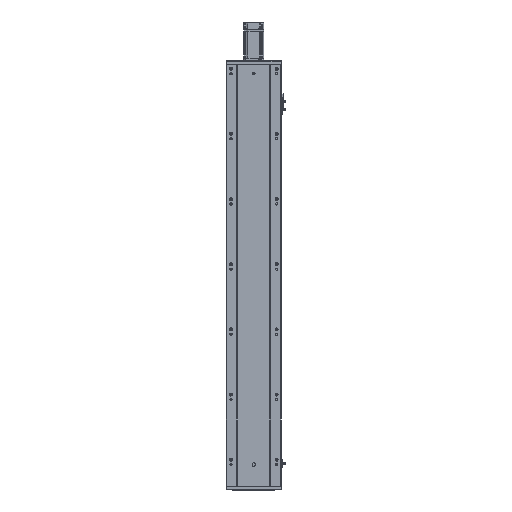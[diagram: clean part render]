
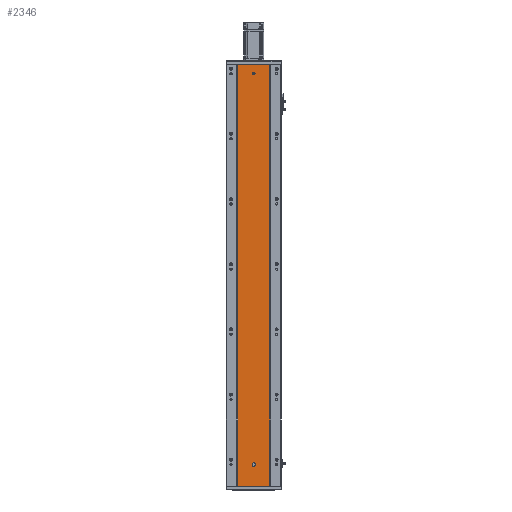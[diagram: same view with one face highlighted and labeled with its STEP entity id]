
A CAD part, front view. The second image highlights one B-rep face of the part: STEP entity #2346.
In plain terms, the highlighted planar face has unit normal (0, -1, 0).
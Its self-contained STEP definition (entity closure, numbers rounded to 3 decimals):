
#288 = CARTESIAN_POINT ( 'NONE',  ( 0., 79.476, 0. ) ) ;
#830 = CARTESIAN_POINT ( 'NONE',  ( 136.47, 79.476, 64.5 ) ) ;
#2135 = VERTEX_POINT ( 'NONE', #33741 ) ;
#2319 = CARTESIAN_POINT ( 'NONE',  ( 86.97, 79.476, 431.333 ) ) ;
#2346 = ADVANCED_FACE ( 'NONE', ( #17611, #15067, #11733 ), #59828, .F. ) ;
#2607 = DIRECTION ( 'NONE',  ( 0., 0., -1. ) ) ;
#2649 = ORIENTED_EDGE ( 'NONE', *, *, #39292, .F. ) ;
#3625 = VECTOR ( 'NONE', #52812, 1000. ) ;
#4907 = CIRCLE ( 'NONE', #14597, 4. ) ;
#5303 = CARTESIAN_POINT ( 'NONE',  ( 86.97, 79.476, 0. ) ) ;
#5333 = EDGE_CURVE ( 'NONE', #51806, #30767, #31546, .T. ) ;
#5781 = EDGE_LOOP ( 'NONE', ( #26503, #51448, #12880, #49440 ) ) ;
#6125 = CARTESIAN_POINT ( 'NONE',  ( 140.47, 79.476, 64.5 ) ) ;
#6331 = EDGE_CURVE ( 'NONE', #2135, #52821, #53430, .T. ) ;
#8231 = CARTESIAN_POINT ( 'NONE',  ( 136.47, 79.476, 60.5 ) ) ;
#8504 = CARTESIAN_POINT ( 'NONE',  ( 136.47, 79.476, 1262. ) ) ;
#9100 = AXIS2_PLACEMENT_3D ( 'NONE', #18228, #29237, #2607 ) ;
#11733 = FACE_OUTER_BOUND ( 'NONE', #5781, .T. ) ;
#12154 = CARTESIAN_POINT ( 'NONE',  ( 185.97, 79.476, 1294. ) ) ;
#12880 = ORIENTED_EDGE ( 'NONE', *, *, #28562, .F. ) ;
#14220 = EDGE_CURVE ( 'NONE', #30767, #51806, #52216, .T. ) ;
#14597 = AXIS2_PLACEMENT_3D ( 'NONE', #830, #17162, #70126 ) ;
#15067 = FACE_BOUND ( 'NONE', #22141, .T. ) ;
#15825 = VERTEX_POINT ( 'NONE', #5303 ) ;
#16416 = VERTEX_POINT ( 'NONE', #61907 ) ;
#17029 = CARTESIAN_POINT ( 'NONE',  ( 185.97, 79.476, 0. ) ) ;
#17162 = DIRECTION ( 'NONE',  ( 0., -1., 0. ) ) ;
#17288 = CARTESIAN_POINT ( 'NONE',  ( 0., 79.476, 1294. ) ) ;
#17361 = EDGE_CURVE ( 'NONE', #42846, #16416, #51721, .T. ) ;
#17611 = FACE_BOUND ( 'NONE', #26761, .T. ) ;
#18182 = AXIS2_PLACEMENT_3D ( 'NONE', #17288, #22459, #33286 ) ;
#18228 = CARTESIAN_POINT ( 'NONE',  ( 136.47, 79.476, 1266. ) ) ;
#18465 = VERTEX_POINT ( 'NONE', #6125 ) ;
#18481 = DIRECTION ( 'NONE',  ( 0., -1., 0. ) ) ;
#20024 = CARTESIAN_POINT ( 'NONE',  ( 140.47, 79.476, 67.5 ) ) ;
#21090 = ORIENTED_EDGE ( 'NONE', *, *, #38543, .F. ) ;
#21669 = DIRECTION ( 'NONE',  ( 0., 0., -1. ) ) ;
#22141 = EDGE_LOOP ( 'NONE', ( #39320, #59477 ) ) ;
#22200 = CARTESIAN_POINT ( 'NONE',  ( 185.97, 79.476, 1294. ) ) ;
#22459 = DIRECTION ( 'NONE',  ( 0., 1., 0. ) ) ;
#22467 = DIRECTION ( 'NONE',  ( 0., 0., -1. ) ) ;
#24143 = CARTESIAN_POINT ( 'NONE',  ( 132.47, 79.476, 64.5 ) ) ;
#26057 = DIRECTION ( 'NONE',  ( 1., 0., 0. ) ) ;
#26503 = ORIENTED_EDGE ( 'NONE', *, *, #50832, .T. ) ;
#26761 = EDGE_LOOP ( 'NONE', ( #2649, #29950, #62817, #29206, #21090 ) ) ;
#28562 = EDGE_CURVE ( 'NONE', #45901, #42846, #44341, .T. ) ;
#29206 = ORIENTED_EDGE ( 'NONE', *, *, #42007, .F. ) ;
#29237 = DIRECTION ( 'NONE',  ( 0., -1., 0. ) ) ;
#29950 = ORIENTED_EDGE ( 'NONE', *, *, #6331, .F. ) ;
#30456 = CIRCLE ( 'NONE', #54355, 4. ) ;
#30767 = VERTEX_POINT ( 'NONE', #43538 ) ;
#31546 = CIRCLE ( 'NONE', #9100, 4. ) ;
#32940 = VERTEX_POINT ( 'NONE', #34501 ) ;
#33286 = DIRECTION ( 'NONE',  ( 0., 0., 1. ) ) ;
#33318 = VECTOR ( 'NONE', #26057, 1000. ) ;
#33741 = CARTESIAN_POINT ( 'NONE',  ( 132.47, 79.476, 67.5 ) ) ;
#34501 = CARTESIAN_POINT ( 'NONE',  ( 140.47, 79.476, 67.5 ) ) ;
#35777 = CARTESIAN_POINT ( 'NONE',  ( 86.97, 79.476, 1294. ) ) ;
#38509 = CARTESIAN_POINT ( 'NONE',  ( 185.97, 79.476, 862.667 ) ) ;
#38543 = EDGE_CURVE ( 'NONE', #64117, #18465, #4907, .T. ) ;
#39292 = EDGE_CURVE ( 'NONE', #52821, #64117, #43673, .T. ) ;
#39320 = ORIENTED_EDGE ( 'NONE', *, *, #5333, .F. ) ;
#40563 = CARTESIAN_POINT ( 'NONE',  ( 86.97, 79.476, 862.667 ) ) ;
#42007 = EDGE_CURVE ( 'NONE', #18465, #32940, #43339, .T. ) ;
#42846 = VERTEX_POINT ( 'NONE', #12154 ) ;
#43339 = LINE ( 'NONE', #20024, #3625 ) ;
#43538 = CARTESIAN_POINT ( 'NONE',  ( 136.47, 79.476, 1270. ) ) ;
#43566 = LINE ( 'NONE', #288, #68972 ) ;
#43673 = CIRCLE ( 'NONE', #46735, 4. ) ;
#44341 = LINE ( 'NONE', #58495, #33318 ) ;
#45901 = VERTEX_POINT ( 'NONE', #35777 ) ;
#46735 = AXIS2_PLACEMENT_3D ( 'NONE', #68099, #18481, #51272 ) ;
#47497 = DIRECTION ( 'NONE',  ( 0., -1., 0. ) ) ;
#48578 = CARTESIAN_POINT ( 'NONE',  ( 132.47, 79.476, 67.5 ) ) ;
#49319 = AXIS2_PLACEMENT_3D ( 'NONE', #60558, #54834, #22467 ) ;
#49350 = CARTESIAN_POINT ( 'NONE',  ( 185.97, 79.476, 431.333 ) ) ;
#49440 = ORIENTED_EDGE ( 'NONE', *, *, #62490, .T. ) ;
#50832 = EDGE_CURVE ( 'NONE', #15825, #16416, #43566, .T. ) ;
#51272 = DIRECTION ( 'NONE',  ( 0., 0., -1. ) ) ;
#51448 = ORIENTED_EDGE ( 'NONE', *, *, #17361, .F. ) ;
#51721 = B_SPLINE_CURVE_WITH_KNOTS ( 'NONE', 3,
 ( #22200, #38509, #49350, #17029 ),
 .UNSPECIFIED., .F., .F.,
 ( 4, 4 ),
 ( 0., 1. ),
 .UNSPECIFIED. ) ;
#51806 = VERTEX_POINT ( 'NONE', #8504 ) ;
#52216 = CIRCLE ( 'NONE', #49319, 4. ) ;
#52812 = DIRECTION ( 'NONE',  ( 0., 0., 1. ) ) ;
#52821 = VERTEX_POINT ( 'NONE', #24143 ) ;
#53034 = EDGE_CURVE ( 'NONE', #32940, #2135, #30456, .T. ) ;
#53430 = LINE ( 'NONE', #48578, #56846 ) ;
#53458 = DIRECTION ( 'NONE',  ( 1., 0., 0. ) ) ;
#54355 = AXIS2_PLACEMENT_3D ( 'NONE', #58919, #47497, #69101 ) ;
#54834 = DIRECTION ( 'NONE',  ( 0., -1., 0. ) ) ;
#56846 = VECTOR ( 'NONE', #21669, 1000. ) ;
#58495 = CARTESIAN_POINT ( 'NONE',  ( 0., 79.476, 1294. ) ) ;
#58919 = CARTESIAN_POINT ( 'NONE',  ( 136.47, 79.476, 67.5 ) ) ;
#59477 = ORIENTED_EDGE ( 'NONE', *, *, #14220, .F. ) ;
#59828 = PLANE ( 'NONE',  #18182 ) ;
#60558 = CARTESIAN_POINT ( 'NONE',  ( 136.47, 79.476, 1266. ) ) ;
#61669 = CARTESIAN_POINT ( 'NONE',  ( 86.97, 79.476, 0. ) ) ;
#61907 = CARTESIAN_POINT ( 'NONE',  ( 185.97, 79.476, 0. ) ) ;
#62490 = EDGE_CURVE ( 'NONE', #45901, #15825, #64219, .T. ) ;
#62817 = ORIENTED_EDGE ( 'NONE', *, *, #53034, .F. ) ;
#64117 = VERTEX_POINT ( 'NONE', #8231 ) ;
#64219 = B_SPLINE_CURVE_WITH_KNOTS ( 'NONE', 3,
 ( #67100, #40563, #2319, #61669 ),
 .UNSPECIFIED., .F., .F.,
 ( 4, 4 ),
 ( 0., 1. ),
 .UNSPECIFIED. ) ;
#67100 = CARTESIAN_POINT ( 'NONE',  ( 86.97, 79.476, 1294. ) ) ;
#68099 = CARTESIAN_POINT ( 'NONE',  ( 136.47, 79.476, 64.5 ) ) ;
#68972 = VECTOR ( 'NONE', #53458, 1000. ) ;
#69101 = DIRECTION ( 'NONE',  ( 0., 0., -1. ) ) ;
#70126 = DIRECTION ( 'NONE',  ( 0., 0., -1. ) ) ;
